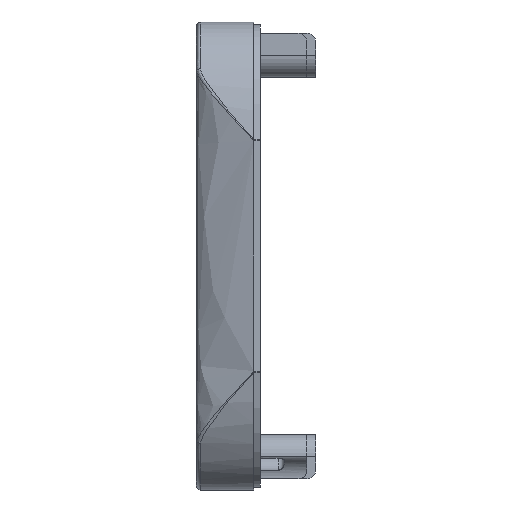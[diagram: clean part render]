
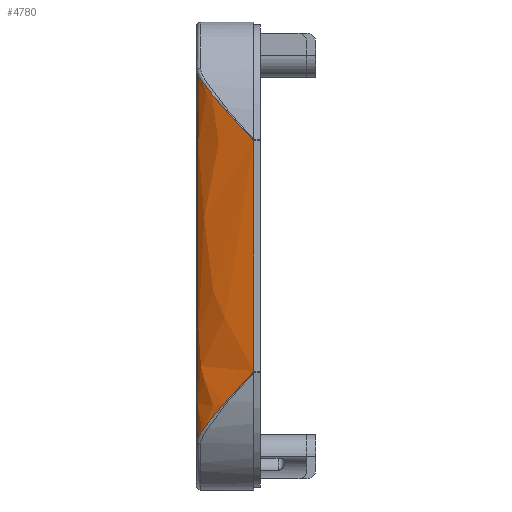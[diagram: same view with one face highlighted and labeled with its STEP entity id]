
A CAD part, left-side view. The second image highlights one B-rep face of the part: STEP entity #4780.
In plain terms, the highlighted free-form (B-spline) face has degree [3, 1] with [4, 2] control points.
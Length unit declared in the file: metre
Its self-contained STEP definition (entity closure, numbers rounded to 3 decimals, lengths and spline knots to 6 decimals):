
#25=B_SPLINE_SURFACE_WITH_KNOTS('',3,1,((#8241,#8242),(#8243,#8244),(#8245,
#8246),(#8247,#8248)),.SURF_OF_LINEAR_EXTRUSION.,.F.,.F.,.F.,(4,4),(2,2),
(0.,0.375474),(0.,1.),.PIECEWISE_BEZIER_KNOTS.);
#290=B_SPLINE_CURVE_WITH_KNOTS('',3,(#8249,#8250,#8251,#8252,#8253,#8254,
#8255,#8256,#8257,#8258,#8259,#8260,#8261),.UNSPECIFIED.,.F.,.F.,(4,1,1,
1,1,1,1,1,1,1,4),(0.,0.000682,0.001365,
0.002729,0.004094,0.005459,0.008188,
0.010918,0.013647,0.016376,0.021835),
 .UNSPECIFIED.);
#291=B_SPLINE_CURVE_WITH_KNOTS('',3,(#8262,#8263,#8264,#8265,#8266,#8267,
#8268,#8269,#8270,#8271,#8272,#8273,#8274),.UNSPECIFIED.,.F.,.F.,(4,1,1,
1,1,1,1,1,1,1,4),(0.,0.005439,0.008159,
0.010878,0.013598,0.016317,0.017677,
0.019037,0.020396,0.021076,0.021756),
 .UNSPECIFIED.);
#1594=ORIENTED_EDGE('',*,*,#1923,.T.);
#1595=ORIENTED_EDGE('',*,*,#2384,.T.);
#1596=ORIENTED_EDGE('',*,*,#1770,.T.);
#1597=ORIENTED_EDGE('',*,*,#2385,.T.);
#1770=EDGE_CURVE('',#2442,#2443,#2891,.F.);
#1923=EDGE_CURVE('',#2596,#2595,#2960,.T.);
#2384=EDGE_CURVE('',#2595,#2442,#290,.T.);
#2385=EDGE_CURVE('',#2443,#2596,#291,.T.);
#2442=VERTEX_POINT('',#6670);
#2443=VERTEX_POINT('',#6671);
#2595=VERTEX_POINT('',#7075);
#2596=VERTEX_POINT('',#7077);
#2891=LINE('',#6669,#3307);
#2960=LINE('',#7076,#3376);
#3307=VECTOR('',#5316,1.);
#3376=VECTOR('',#5529,1.);
#4043=EDGE_LOOP('',(#1594,#1595,#1596,#1597));
#4405=FACE_BOUND('',#4043,.T.);
#4780=ADVANCED_FACE('',(#4405),#25,.F.);
#5316=DIRECTION('',(0.,0.,-1.));
#5529=DIRECTION('',(0.,0.,-1.));
#6669=CARTESIAN_POINT('',(-0.127361,-0.013,0.245958));
#6670=CARTESIAN_POINT('',(-0.127361,-0.013,-0.026067));
#6671=CARTESIAN_POINT('',(-0.127361,-0.013,0.026067));
#7075=CARTESIAN_POINT('',(-0.12145,0.,-0.041912));
#7076=CARTESIAN_POINT('',(-0.12145,0.,0.245958));
#7077=CARTESIAN_POINT('',(-0.12145,0.,0.041912));
#8241=CARTESIAN_POINT('',(-0.12145,0.,0.042415));
#8242=CARTESIAN_POINT('',(-0.12145,0.,-0.042415));
#8243=CARTESIAN_POINT('',(-0.123703,0.,0.042415));
#8244=CARTESIAN_POINT('',(-0.123703,0.,-0.042415));
#8245=CARTESIAN_POINT('',(-0.126238,-0.00578,0.042415));
#8246=CARTESIAN_POINT('',(-0.126238,-0.00578,-0.042415));
#8247=CARTESIAN_POINT('',(-0.127361,-0.013,0.042415));
#8248=CARTESIAN_POINT('',(-0.127361,-0.013,-0.042415));
#8249=CARTESIAN_POINT('',(-0.12145,0.,-0.041912));
#8250=CARTESIAN_POINT('',(-0.121658,0.,-0.04182));
#8251=CARTESIAN_POINT('',(-0.122046,-0.000102,-0.041575));
#8252=CARTESIAN_POINT('',(-0.122608,-0.000438,-0.040934));
#8253=CARTESIAN_POINT('',(-0.12315,-0.000963,-0.040079));
#8254=CARTESIAN_POINT('',(-0.123688,-0.001672,-0.039058));
#8255=CARTESIAN_POINT('',(-0.124318,-0.002698,-0.037693));
#8256=CARTESIAN_POINT('',(-0.124975,-0.004062,-0.036009));
#8257=CARTESIAN_POINT('',(-0.125629,-0.005768,-0.033995));
#8258=CARTESIAN_POINT('',(-0.12618,-0.007515,-0.031981));
#8259=CARTESIAN_POINT('',(-0.126801,-0.009882,-0.029309));
#8260=CARTESIAN_POINT('',(-0.12716,-0.011709,-0.027329));
#8261=CARTESIAN_POINT('',(-0.127361,-0.013,-0.026067));
#8262=CARTESIAN_POINT('',(-0.127361,-0.013,0.026067));
#8263=CARTESIAN_POINT('',(-0.12716,-0.01171,0.027328));
#8264=CARTESIAN_POINT('',(-0.1268,-0.00988,0.029311));
#8265=CARTESIAN_POINT('',(-0.12618,-0.007512,0.031983));
#8266=CARTESIAN_POINT('',(-0.12563,-0.00577,0.033993));
#8267=CARTESIAN_POINT('',(-0.124977,-0.004065,0.036005));
#8268=CARTESIAN_POINT('',(-0.124317,-0.002696,0.037694));
#8269=CARTESIAN_POINT('',(-0.123692,-0.001677,0.039051));
#8270=CARTESIAN_POINT('',(-0.123154,-0.000967,0.040072));
#8271=CARTESIAN_POINT('',(-0.122609,-0.000439,0.040932));
#8272=CARTESIAN_POINT('',(-0.122047,-0.000102,0.041575));
#8273=CARTESIAN_POINT('',(-0.121657,0.,0.04182));
#8274=CARTESIAN_POINT('',(-0.12145,0.,0.041912));
